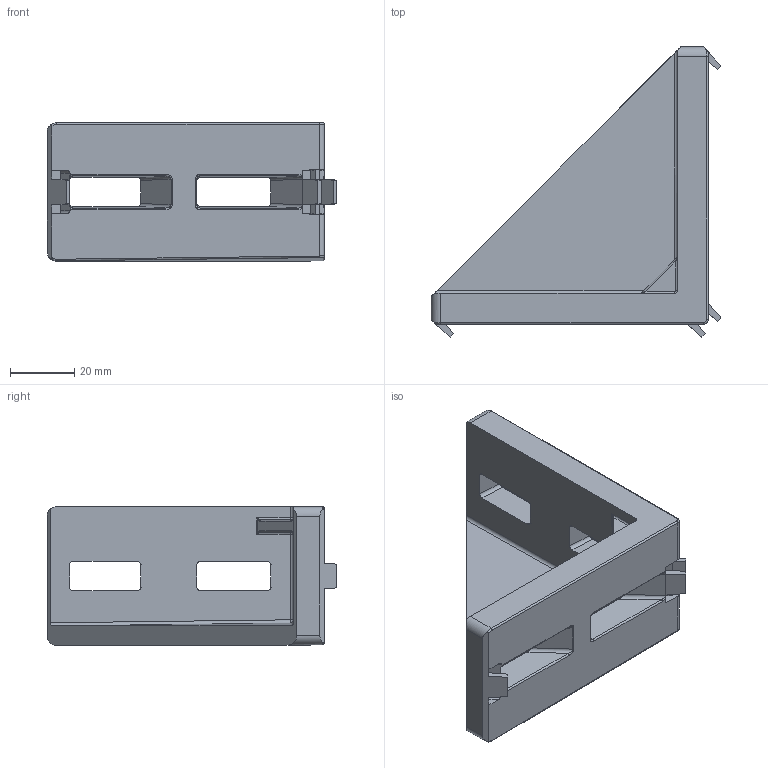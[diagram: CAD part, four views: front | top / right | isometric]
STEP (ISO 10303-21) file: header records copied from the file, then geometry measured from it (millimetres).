
FILE_DESCRIPTION (( 'STEP AP203' ), '1' );
FILE_NAME ('084.305.027.STEP', '2013-01-25T15:12:41', ( 'Alusic' ), ( 'Alusic' ), 'SwSTEP 2.0', 'SolidWorks 2011', '' );
FILE_SCHEMA (( 'CONFIG_CONTROL_DESIGN' ));
Length unit declared in the file: millimetre
Products named in the file (1): 084.305.027
Bounding box: 89.98 x 89.98 x 43 mm (x, y, z)
Volume: 72664.6 mm3; surface area: 24172.8 mm2
Topology: 1 solids, 1 shells, 155 faces, 415 edges, 255 vertices
Faces by surface type: plane 64, cylinder 55, bspline 36
Entity records: 5716 total; most frequent: CARTESIAN_POINT 2172, ORIENTED_EDGE 820, DIRECTION 598, EDGE_CURVE 410, VERTEX_POINT 255, LINE 232, VECTOR 232, AXIS2_PLACEMENT_3D 183
